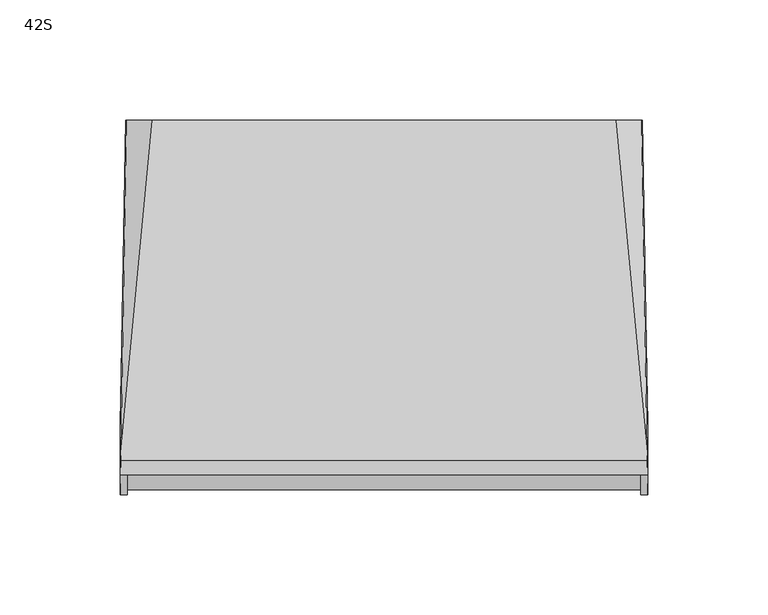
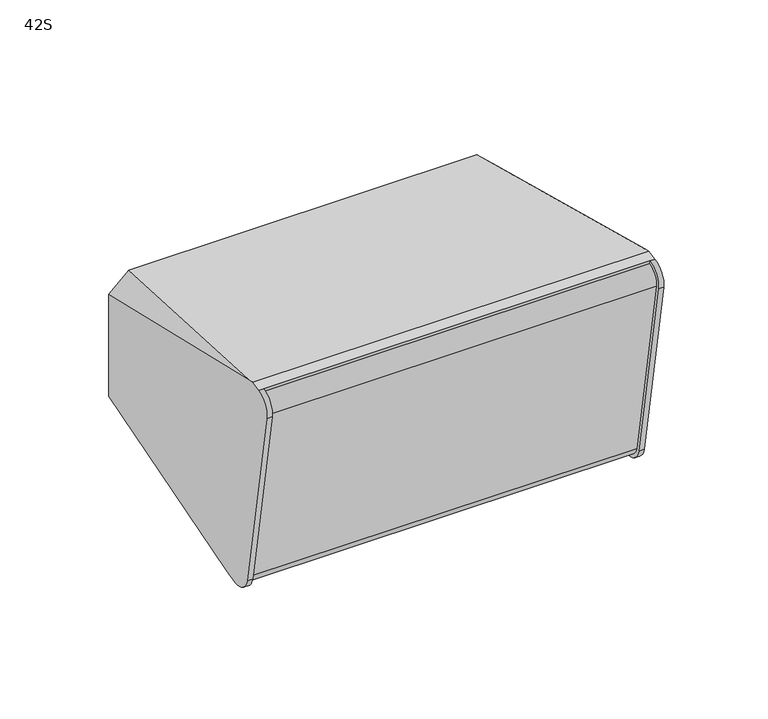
"""IFC4 building model written with IfcOpenShell, lengths in millimetres: proxy geometry, d&b xS-Series 42S Point Source : 42S."""

import ifcopenshell
import ifcopenshell.guid

model = None  # the IFC model being written
_history = None  # IfcOwnerHistory: only IFC2X3 demands one
_inside = {}  # id of a spatial element -> (the spatial element, [elements in it])
_under = {}  # id of a project, library or spatial element -> (it, [spatial elements below it])
_declared = {}  # id of a project -> (the project, [libraries it declares])
_typed = {}  # id of a type object -> (the type object, [elements of that type])
_made_of = {}  # id of a material, layer set ... -> (it, [elements and type objects made of it])


def new_model(schema):
    """Start an empty IFC model of exactly this schema.

    Asked for "IFC4X3", IfcOpenShell would pick the latest addendum, in which some entities
    have other attributes; the version numbers below select the first issue.
    IFC2X3 requires an IfcOwnerHistory on every rooted entity: one is made here for all.
    """
    global model, _history
    if schema == "IFC4X3":
        model = ifcopenshell.file(schema_version=(4, 3, 0, 0))
    else:
        model = ifcopenshell.file(schema=schema)
    _inside.clear()
    _under.clear()
    _declared.clear()
    _typed.clear()
    _made_of.clear()
    _history = None
    if model.schema == "IFC2X3":
        org = make("IfcOrganization", Name="unknown")
        user = make(
            "IfcPersonAndOrganization",
            ThePerson=make("IfcPerson", FamilyName="unknown"),
            TheOrganization=org,
        )
        app = make(
            "IfcApplication",
            ApplicationDeveloper=org,
            Version="unknown",
            ApplicationFullName="unknown",
            ApplicationIdentifier="unknown",
        )
        _history = make(
            "IfcOwnerHistory",
            OwningUser=user,
            OwningApplication=app,
            ChangeAction="ADDED",
            CreationDate=0,
        )
    return model


def make(cls, **values):
    """One entity of the class cls with the attributes given. An attribute that is None is left unset."""
    return model.create_entity(
        cls, **{name: value for name, value in values.items() if value is not None}
    )


def rooted(cls, **values):
    """An entity with a GlobalId (a new one), such as an element, a storey or a relation."""
    return make(cls, GlobalId=ifcopenshell.guid.new(), OwnerHistory=_history, **values)


def si_unit(unit_type, name, prefix=None):
    """IfcSIUnit, for example si_unit("LENGTHUNIT", "METRE", prefix="MILLI")."""
    return make("IfcSIUnit", UnitType=unit_type, Prefix=prefix, Name=name)


def assignment(units):
    """IfcUnitAssignment: the units of a project."""
    return None if units is None else make("IfcUnitAssignment", Units=units)


def point(xyz):
    """IfcCartesianPoint."""
    return None if xyz is None else make("IfcCartesianPoint", Coordinates=xyz)


def direction(xyz):
    """IfcDirection."""
    return None if xyz is None else make("IfcDirection", DirectionRatios=xyz)


def frame(location, z_axis=None, x_axis=None):
    """IfcAxis2Placement3D, a coordinate frame: its origin and axes. An axis left out is left unset."""
    return make(
        "IfcAxis2Placement3D",
        Location=point(location),
        Axis=direction(z_axis),
        RefDirection=direction(x_axis),
    )


def frame_2d(location, x_axis=None):
    """IfcAxis2Placement2D, a coordinate frame in the plane: its origin and x axis."""
    return make(
        "IfcAxis2Placement2D", Location=point(location), RefDirection=direction(x_axis)
    )


def origin():
    """The frame at (0, 0, 0) with its axes left unset."""
    return frame((0.0, 0.0, 0.0))


def place(relative_to, where):
    """IfcLocalPlacement: puts the frame where relative to a parent placement (None: the world)."""
    return make(
        "IfcLocalPlacement", PlacementRelTo=relative_to, RelativePlacement=where
    )


def context(
    kind, dimensions, precision=None, world=None, true_north=None, identifier=None
):
    """IfcGeometricRepresentationContext, for example the 3D "Model" context."""
    return make(
        "IfcGeometricRepresentationContext",
        ContextIdentifier=identifier,
        ContextType=kind,
        CoordinateSpaceDimension=dimensions,
        Precision=precision,
        WorldCoordinateSystem=world,
        TrueNorth=true_north,
    )


def project(units=None, contexts=None):
    """IfcProject with its units and contexts."""
    return rooted(
        "IfcProject",
        Name="project",
        RepresentationContexts=contexts,
        UnitsInContext=assignment(units),
    )


def spatial(cls, under=None, at=None, **own):
    """A site, building, storey or space (cls), placed at a placement, below another one or the project."""
    s = rooted(cls, ObjectPlacement=at, **own)
    if under is not None:
        _under.setdefault(under.id(), (under, []))[1].append(s)
    return s


def polyline(points):
    """IfcPolyline through the points."""
    return make("IfcPolyline", Points=[point(p) for p in points])


def circle_curve(where, radius):
    """IfcCircle in the frame where."""
    return make("IfcCircle", Position=where, Radius=radius)


def ellipse_curve(where, semi_axis1, semi_axis2):
    """IfcEllipse in the frame where."""
    return make(
        "IfcEllipse", Position=where, SemiAxis1=semi_axis1, SemiAxis2=semi_axis2
    )


def trimmed(basis, trim1, trim2, sense, master):
    """IfcTrimmedCurve: the piece of a basis curve between two trims."""
    return make(
        "IfcTrimmedCurve",
        BasisCurve=basis,
        Trim1=trim1,
        Trim2=trim2,
        SenseAgreement=sense,
        MasterRepresentation=master,
    )


def segment(curve, same_sense, transition):
    """IfcCompositeCurveSegment."""
    return make(
        "IfcCompositeCurveSegment",
        Transition=transition,
        SameSense=same_sense,
        ParentCurve=curve,
    )


def composite_curve(segments, self_intersect=None):
    """IfcCompositeCurve: segments joined end to end."""
    return make("IfcCompositeCurve", Segments=segments, SelfIntersect=self_intersect)


def outline(outer, holes=None, kind="AREA"):
    """IfcArbitraryClosedProfileDef: a profile drawn as a closed curve; with holes, ...WithVoids."""
    if holes is None:
        return make("IfcArbitraryClosedProfileDef", ProfileType=kind, OuterCurve=outer)
    return make(
        "IfcArbitraryProfileDefWithVoids",
        ProfileType=kind,
        OuterCurve=outer,
        InnerCurves=holes,
    )


def extrude(swept, where, along, depth):
    """IfcExtrudedAreaSolid: the profile swept, set in the frame where, extruded along a direction by depth."""
    return make(
        "IfcExtrudedAreaSolid",
        SweptArea=swept,
        Position=where,
        ExtrudedDirection=direction(along),
        Depth=depth,
    )


def shape(context_of_items, identifier, shape_type, items):
    """IfcShapeRepresentation: the items that make up one representation, for example the "Body"."""
    return make(
        "IfcShapeRepresentation",
        ContextOfItems=context_of_items,
        RepresentationIdentifier=identifier,
        RepresentationType=shape_type,
        Items=items,
    )


def source(mapping_origin, context_of_items, identifier, shape_type, items):
    """IfcRepresentationMap: a shape defined once, which mapped items show again and again."""
    return make(
        "IfcRepresentationMap",
        MappingOrigin=mapping_origin,
        MappedRepresentation=shape(context_of_items, identifier, shape_type, items),
    )


def transform(
    local_origin,
    x_axis=None,
    y_axis=None,
    z_axis=None,
    scale=None,
    scale2=None,
    scale3=None,
    uniform=True,
):
    """IfcCartesianTransformationOperator3D, or its non-uniform kind. x_axis, y_axis, z_axis: its Axis1, 2, 3."""
    if uniform:
        return make(
            "IfcCartesianTransformationOperator3D",
            Axis1=direction(x_axis),
            Axis2=direction(y_axis),
            LocalOrigin=point(local_origin),
            Scale=scale,
            Axis3=direction(z_axis),
        )
    return make(
        "IfcCartesianTransformationOperator3DnonUniform",
        Axis1=direction(x_axis),
        Axis2=direction(y_axis),
        LocalOrigin=point(local_origin),
        Scale=scale,
        Axis3=direction(z_axis),
        Scale2=scale2,
        Scale3=scale3,
    )


def mapped(mapping_source, mapping_target):
    """IfcMappedItem: shows the shape of a source again, moved by a transform."""
    return make(
        "IfcMappedItem", MappingSource=mapping_source, MappingTarget=mapping_target
    )


def made_of(thing, what):
    """Note that an element or type object is made of a material, layer set ...; save() writes the relation."""
    if what is not None:
        _made_of.setdefault(what.id(), (what, []))[1].append(thing)
    return thing


def element(
    cls,
    number,
    at=None,
    inside=None,
    cuts=None,
    type_object=None,
    material=None,
    context=None,
    identifier="Body",
    shape_type=None,
    held_by="IfcProductDefinitionShape",
    body=None,
    shapes=None,
    **own,
):
    """One element of the class cls, such as IfcWall. Its Tag is "e" and its number.

    at: its placement. inside: the storey or other place that contains it. cuts: it is an
    opening in that element (IfcRelVoidsElement). A single representation is given by context,
    identifier, shape_type and body (its items); several are given by shapes. held_by: the class
    of the entity that holds the representations. save() writes the other relations.
    """
    e = rooted(cls, Tag="e%d" % number, ObjectPlacement=at, **own)
    if body is not None:
        shapes = [shape(context, identifier, shape_type, body)]
    if shapes is not None:
        e.Representation = make(held_by, Representations=shapes)
    if inside is not None:
        _inside.setdefault(inside.id(), (inside, []))[1].append(e)
    if cuts is not None:
        rooted(
            "IfcRelVoidsElement", RelatingBuildingElement=cuts, RelatedOpeningElement=e
        )
    if type_object is not None:
        _typed.setdefault(type_object.id(), (type_object, []))[1].append(e)
    return made_of(e, material)


def aggregate(whole, parts):
    """IfcRelAggregates: a whole, such as a stair, and the parts it consists of."""
    return rooted("IfcRelAggregates", RelatingObject=whole, RelatedObjects=parts)


def save(model, path):
    """Write the relations noted so far, then the file.

    IfcRelAggregates (storeys below a building ...), IfcRelContainedInSpatialStructure (elements
    in a storey), IfcRelDefinesByType, IfcRelAssociatesMaterial and IfcRelDeclares: one each for
    every whole, place, type object, material and project.
    """
    for whole, parts in _under.values():
        aggregate(whole, parts)
    for where, things in _inside.values():
        rooted(
            "IfcRelContainedInSpatialStructure",
            RelatedElements=things,
            RelatingStructure=where,
        )
    for kind, things in _typed.values():
        rooted("IfcRelDefinesByType", RelatedObjects=things, RelatingType=kind)
    for what, things in _made_of.values():
        rooted("IfcRelAssociatesMaterial", RelatedObjects=things, RelatingMaterial=what)
    for by, libraries in _declared.values():
        rooted("IfcRelDeclares", RelatingContext=by, RelatedDefinitions=libraries)
    model.write(path)


def plane_surface(at):
    """IfcPlane: the flat surface through the origin of the frame at, square to its z axis."""
    return make("IfcPlane", Position=at)


def cylinder_surface(at, radius):
    """IfcCylindricalSurface: all points at the distance radius from the z axis of the frame at."""
    return make("IfcCylindricalSurface", Position=at, Radius=radius)


def revolved_surface(curve, axis_point, axis_direction):
    """IfcSurfaceOfRevolution: the curve turned about the line through axis_point along axis_direction."""
    return make(
        "IfcSurfaceOfRevolution",
        SweptCurve=make("IfcArbitraryOpenProfileDef", ProfileType="CURVE", Curve=curve),
        AxisPosition=make("IfcAxis1Placement", Location=point(axis_point), Axis=direction(axis_direction)),
    )


def advanced_brep(points, edges, surfaces, faces):
    """IfcAdvancedBrep: a solid bounded by faces that lie on surfaces and meet in shared edges.

    An edge is (start, end): straight between two places in points (the first is 0);
    or (start, end, curve); or (start, end, curve, False) where it runs against its curve.
    A face is (place in surfaces, loops), or (place, loops, False) where it looks against
    its surface's normal. A loop lists edges by number (the first is 1), with a minus sign
    where the edge is run from its end to its start. The first loop is the outer one.
    """
    corners = [point(p) for p in points]
    vertices = [make("IfcVertexPoint", VertexGeometry=c) for c in corners]
    made = []
    for start, end, *more in edges:
        made.append(
            make(
                "IfcEdgeCurve",
                EdgeStart=vertices[start],
                EdgeEnd=vertices[end],
                EdgeGeometry=more[0] if more else make("IfcPolyline", Points=[corners[start], corners[end]]),
                SameSense=more[1] if len(more) > 1 else True,
            )
        )
    hull = []
    for where, loops, *sense in faces:
        bounds = []
        for j, loop in enumerate(loops):
            ring = [make("IfcOrientedEdge", EdgeElement=made[abs(k) - 1], Orientation=k > 0) for k in loop]
            bounds.append(
                make(
                    "IfcFaceOuterBound" if j == 0 else "IfcFaceBound",
                    Bound=make("IfcEdgeLoop", EdgeList=ring),
                    Orientation=True,
                )
            )
        hull.append(make("IfcAdvancedFace", Bounds=bounds, FaceSurface=surfaces[where], SameSense=sense[0] if sense else True))
    return make("IfcAdvancedBrep", Outer=make("IfcClosedShell", CfsFaces=hull))


def proxy_42s_63104fb8(model_context):
    return source(origin(), model_context, "Body", "SolidModel", [
        advanced_brep(
        [(-107.0, -53.8838283, -74.4884759), (107.0, -53.8838283, -74.4884759), (107.0, -54.2235668, -72.5617234), (-107.0, -54.2235668, -72.5617234), (107.0, -63.4507785, -66.1007602), (-107.0, -63.4507785, -66.1007602), (107.0, -82.2184008, 40.3357147), (-107.0, -82.2184008, 40.3357147), (107.0, -75.7291242, 49.6033621), (-107.0, -75.7291242, 49.6033621), (107.0, -76.0764205, 51.5729776), (-107.0, -76.0764205, 51.5729776), (109.8273531, -76.0764205, 51.5729776), (109.7253263, -70.2363231, 52.6027444), (-109.7253263, -70.2363231, 52.6027444), (-109.8273531, -76.0764205, 51.5729776), (-109.8279536, -53.8838283, -74.4884759), (-109.6679034, -44.7224233, -72.873073), (-97.8946622, 71.803477, -52.3264129), (97.8946622, 71.803477, -52.3264129), (109.6679034, -44.7224233, -72.873073), (109.8279536, -53.8838283, -74.4884759), (96.5142171, 71.803477, 27.569373), (-96.5142171, 71.803477, 27.569373), (-109.6679034, -66.7384961, 51.9862805), (109.6679034, -66.7384961, 51.9862805), (-107.602215, 71.803477, -42.2930744), (107.602215, 71.803477, -42.2930744), (107.4240938, 71.803477, 17.3279766), (-107.4240938, 71.803477, 17.3279766), (-109.9986507, -65.3775311, -66.4404986), (-109.9993995, -84.1880163, 39.9884183), (109.9993995, -84.1880163, 39.9884183), (109.9993995, -65.420394, -66.4480565), (-107.0, -84.1880163, 39.9884183), (-107.0, -65.420394, -66.4480565), (-95.447753, 71.803477, -33.2098641), (-82.947753, 71.803477, -45.7098641), (-67.052247, 71.803477, -45.7098641), (-54.552247, 71.803477, -33.2098641), (-54.552247, 71.803477, 8.3756313), (-67.052247, 71.803477, 20.8756313), (-82.947753, 71.803477, 20.8756313), (-95.447753, 71.803477, 8.3756313), (52.1, 71.803477, -33.2098641), (64.6, 71.803477, -45.7098641), (82.4, 71.803477, -45.7098641), (94.9, 71.803477, -33.2098641), (94.9, 71.803477, 8.3756313), (82.4, 71.803477, 20.8756313), (64.6, 71.803477, 20.8756313), (52.1, 71.803477, 8.3756313), (-95.447753, 66.803477, -33.2098641), (-95.447753, 66.803477, 8.3756313), (-82.947753, 66.803477, 20.8756313), (-67.052247, 66.803477, 20.8756313), (-54.552247, 66.803477, 8.3756313), (-54.552247, 66.803477, -33.2098641), (-67.052247, 66.803477, -45.7098641), (-82.947753, 66.803477, -45.7098641), (52.1, 66.803477, -33.2098641), (52.1, 66.803477, 8.3756313), (64.6, 66.803477, 20.8756313), (82.4, 66.803477, 20.8756313), (94.9, 66.803477, 8.3756313), (94.9, 66.803477, -33.2098641), (82.4, 66.803477, -45.7098641), (64.6, 66.803477, -45.7098641), (107.0, -65.3775311, -66.4404986), (107.0, -84.1880163, 39.9884183)],
        [
            (0, 1),
            (1, 2),
            (2, 3),
            (3, 0),
            (2, 4, circle_curve(frame((107.0, -55.606691, -64.7176359), z_axis=(-1.0, 0.0, 0.0), x_axis=(0.0, 0.1736481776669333, -0.9848077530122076)), 7.9650952)),
            (4, 5),
            (5, 3, circle_curve(frame((-107.0, -55.606691, -64.7176359), z_axis=(1.0, 0.0, 0.0), x_axis=(0.0, 0.1736481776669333, -0.9848077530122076)), 7.9650952)),
            (4, 6),
            (6, 7),
            (7, 5),
            (6, 8, circle_curve(frame((107.0, -74.3399388, 41.7249001), z_axis=(-1.0, 0.0, 0.0), x_axis=(0.0, 0.1736481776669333, -0.9848077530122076)), 8.0)),
            (8, 9),
            (9, 7, circle_curve(frame((-107.0, -74.3399388, 41.7249001), z_axis=(1.0, 0.0, 0.0), x_axis=(0.0, 0.1736481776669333, -0.9848077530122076)), 8.0)),
            (8, 10),
            (10, 11),
            (11, 9),
            (10, 12),
            (12, 13),
            (13, 14),
            (14, 15),
            (15, 11),
            (0, 16),
            (16, 17),
            (17, 18),
            (18, 19),
            (19, 20),
            (20, 21),
            (21, 1),
            (22, 23),
            (23, 24),
            (24, 14),
            (13, 25),
            (25, 22),
            (26, 18),
            (17, 26),
            (19, 27),
            (27, 20),
            (28, 22),
            (25, 28),
            (23, 29),
            (29, 24),
            (29, 26),
            (16, 30, ellipse_curve(frame((-109.8279536, -55.606691, -64.7176359), z_axis=(-0.9998520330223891, 0.016940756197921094, 0.002987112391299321), x_axis=(-0.017202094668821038, -0.984662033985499, -0.1736224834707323)), 9.9230392, 9.921571)),
            (30, 31),
            (31, 15, ellipse_curve(frame((-109.8273531, -74.3399388, 41.7249001), z_axis=(-0.9998520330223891, 0.016940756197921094, 0.002987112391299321), x_axis=(-0.017202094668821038, -0.984662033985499, -0.1736224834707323)), 10.0014799, 10.0)),
            (12, 32, ellipse_curve(frame((109.8273531, -74.3399388, 41.7249001), z_axis=(0.9998520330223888, 0.016940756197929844, 0.002987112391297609), x_axis=(-0.017202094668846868, 0.984662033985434, 0.17362248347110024)), 10.0014799, 10.0)),
            (32, 33),
            (33, 21, ellipse_curve(frame((109.8279536, -55.606691, -64.7176359), z_axis=(0.9998520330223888, 0.016940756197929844, 0.002987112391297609), x_axis=(-0.017202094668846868, 0.984662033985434, 0.17362248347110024)), 9.9230392, 9.921571)),
            (27, 28),
            (11, 34, circle_curve(frame((-107.0, -74.3399388, 41.7249001), z_axis=(1.0, 0.0, 0.0), x_axis=(0.0, 0.1736481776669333, -0.9848077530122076)), 10.0)),
            (34, 35),
            (35, 0, circle_curve(frame((-107.0, -55.606691, -64.7176359), z_axis=(1.0, 0.0, 0.0), x_axis=(0.0, 0.1736481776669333, -0.9848077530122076)), 9.921571)),
            (35, 30),
            (34, 31),
            (36, 37, circle_curve(frame((-82.947753, 71.803477, -33.2098641), z_axis=(0.0, -1.0, 0.0), x_axis=(0.0, 0.0, 1.0)), 12.5)),
            (37, 38),
            (38, 39, circle_curve(frame((-67.052247, 71.803477, -33.2098641), z_axis=(0.0, -1.0, 0.0), x_axis=(0.0, 0.0, 1.0)), 12.5)),
            (39, 40),
            (40, 41, circle_curve(frame((-67.052247, 71.803477, 8.3756313), z_axis=(0.0, -1.0, 0.0), x_axis=(0.0, 0.0, 1.0)), 12.5)),
            (41, 42),
            (42, 43, circle_curve(frame((-82.947753, 71.803477, 8.3756313), z_axis=(0.0, -1.0, 0.0), x_axis=(0.0, 0.0, 1.0)), 12.5)),
            (43, 36),
            (44, 45, circle_curve(frame((64.6, 71.803477, -33.2098641), z_axis=(0.0, -1.0, 0.0), x_axis=(0.0, 0.0, 1.0)), 12.5)),
            (45, 46),
            (46, 47, circle_curve(frame((82.4, 71.803477, -33.2098641), z_axis=(0.0, -1.0, 0.0), x_axis=(0.0, 0.0, 1.0)), 12.5)),
            (47, 48),
            (48, 49, circle_curve(frame((82.4, 71.803477, 8.3756313), z_axis=(0.0, -1.0, 0.0), x_axis=(0.0, 0.0, 1.0)), 12.5)),
            (49, 50),
            (50, 51, circle_curve(frame((64.6, 71.803477, 8.3756313), z_axis=(0.0, -1.0, 0.0), x_axis=(0.0, 0.0, 1.0)), 12.5)),
            (51, 44),
            (52, 53),
            (53, 54, circle_curve(frame((-82.947753, 66.803477, 8.3756313), z_axis=(0.0, 1.0, 0.0), x_axis=(0.0, 0.0, 1.0)), 12.5)),
            (54, 55),
            (55, 56, circle_curve(frame((-67.052247, 66.803477, 8.3756313), z_axis=(0.0, 1.0, 0.0), x_axis=(0.0, 0.0, 1.0)), 12.5)),
            (56, 57),
            (57, 58, circle_curve(frame((-67.052247, 66.803477, -33.2098641), z_axis=(0.0, 1.0, 0.0), x_axis=(0.0, 0.0, 1.0)), 12.5)),
            (58, 59),
            (59, 52, circle_curve(frame((-82.947753, 66.803477, -33.2098641), z_axis=(0.0, 1.0, 0.0), x_axis=(0.0, 0.0, 1.0)), 12.5)),
            (60, 61),
            (61, 62, circle_curve(frame((64.6, 66.803477, 8.3756313), z_axis=(0.0, 1.0, 0.0), x_axis=(0.0, 0.0, 1.0)), 12.5)),
            (62, 63),
            (63, 64, circle_curve(frame((82.4, 66.803477, 8.3756313), z_axis=(0.0, 1.0, 0.0), x_axis=(0.0, 0.0, 1.0)), 12.5)),
            (64, 65),
            (65, 66, circle_curve(frame((82.4, 66.803477, -33.2098641), z_axis=(0.0, 1.0, 0.0), x_axis=(0.0, 0.0, 1.0)), 12.5)),
            (66, 67),
            (67, 60, circle_curve(frame((64.6, 66.803477, -33.2098641), z_axis=(0.0, 1.0, 0.0), x_axis=(0.0, 0.0, 1.0)), 12.5)),
            (1, 68, circle_curve(frame((107.0, -55.606691, -64.7176359), z_axis=(-1.0, 0.0, 0.0), x_axis=(0.0, 0.1736481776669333, -0.9848077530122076)), 9.921571)),
            (68, 69),
            (69, 10, circle_curve(frame((107.0, -74.3399388, 41.7249001), z_axis=(-1.0, 0.0, 0.0), x_axis=(0.0, 0.1736481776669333, -0.9848077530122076)), 10.0)),
            (33, 68),
            (32, 69),
            (59, 37),
            (36, 52),
            (58, 38),
            (57, 39),
            (56, 40),
            (55, 41),
            (54, 42),
            (53, 43),
            (67, 45),
            (44, 60),
            (66, 46),
            (65, 47),
            (64, 48),
            (63, 49),
            (62, 50),
            (61, 51),
        ],
        [
            plane_surface(frame((-107.0, -53.8838283, -74.4884759), z_axis=(0.0, -0.9848077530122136, -0.17364817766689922), x_axis=(1.0, 0.0, 0.0))),
            cylinder_surface(frame((107.0, -55.606691, -64.7176359), z_axis=(-1.0, 0.0, 0.0), x_axis=(0.0, 0.1736481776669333, -0.9848077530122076)), 7.9650952),
            plane_surface(frame((-107.0, -63.4507785, -66.1007602), z_axis=(0.0, -0.9848077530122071, -0.17364817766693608), x_axis=(1.0, 0.0, 0.0))),
            cylinder_surface(frame((107.0, -74.3399388, 41.7249001), z_axis=(-1.0, 0.0, 0.0), x_axis=(0.0, 0.1736481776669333, -0.9848077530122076)), 8.0),
            plane_surface(frame((-107.0, -75.7291242, 49.6033621), z_axis=(0.0, -0.9848077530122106, -0.17364817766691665), x_axis=(1.0, 0.0, 0.0))),
            plane_surface(frame((-107.0, -76.0764205, 51.5729776), z_axis=(0.0, -0.1736481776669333, 0.9848077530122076), x_axis=(1.0, 0.0, 0.0))),
            plane_surface(frame((-107.0, -48.0093563, -73.452648), z_axis=(0.0, 0.1736481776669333, -0.9848077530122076), x_axis=(1.0, 0.0, 0.0))),
            plane_surface(frame((0.0, 72.3274823, 27.4770213), z_axis=(0.0, 0.17356696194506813, 0.9848220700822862), x_axis=(-1.0, 0.0, 0.0))),
            plane_surface(frame((-103.232233, 84.7836622, -43.1654853), z_axis=(-0.7053631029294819, 0.1916027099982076, -0.6824597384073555), x_axis=(0.7071067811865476, 0.12278780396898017, -0.6963642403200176))),
            plane_surface(frame((103.232233, 84.7836622, -43.1654853), z_axis=(0.7053631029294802, 0.19160270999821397, -0.6824597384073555), x_axis=(0.7071067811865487, -0.12278780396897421, 0.6963642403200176))),
            plane_surface(frame((103.232233, 73.5026927, 20.812072), z_axis=(0.6719558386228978, 0.18995477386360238, 0.715815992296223), x_axis=(-0.7071067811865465, -0.12278780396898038, 0.6963642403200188))),
            plane_surface(frame((-103.232233, 73.5026927, 20.812072), z_axis=(-0.6719558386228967, 0.1899547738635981, 0.715815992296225), x_axis=(-0.7071067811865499, 0.12278780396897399, -0.6963642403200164))),
            plane_surface(frame((-110.3665166, -113.1899198, 81.5842244), z_axis=(-0.9998520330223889, 0.01694075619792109, 0.0029871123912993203), x_axis=(0.0, 0.1736481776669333, -0.9848077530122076))),
            plane_surface(frame((107.2474477, 65.3481506, 113.0653033), z_axis=(0.999852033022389, 0.016940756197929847, 0.00298711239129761), x_axis=(0.0, 0.1736481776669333, -0.9848077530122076))),
            plane_surface(frame((-107.0, -53.8838283, -74.4884759), z_axis=(1.0, 0.0, 0.0), x_axis=(0.0, 0.9848077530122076, 0.1736481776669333))),
            cylinder_surface(frame((-107.0, -55.606691, -64.7176359), z_axis=(-1.0, 0.0, 0.0), x_axis=(0.0, 0.1736481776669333, -0.9848077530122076)), 9.921571),
            plane_surface(frame((-112.6426388, -65.420394, -66.4480565), z_axis=(0.0, -0.9848077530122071, -0.17364817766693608), x_axis=(1.0, 0.0, 0.0))),
            cylinder_surface(frame((-107.0, -74.3399388, 41.7249001), z_axis=(-1.0, 0.0, 0.0), x_axis=(0.0, 0.1736481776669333, -0.9848077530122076)), 10.0),
            plane_surface(frame((-250.0, 71.803477, -69.8511939), z_axis=(0.0, 1.0, 0.0), x_axis=(1.0, 0.0, 0.0))),
            plane_surface(frame((-82.947753, 66.803477, -20.7098641), z_axis=(0.0, 1.0, 0.0), x_axis=(-1.0, 0.0, 0.0))),
            plane_surface(frame((107.0, -53.8838283, -74.4884759), z_axis=(-1.0, 0.0, 0.0), x_axis=(0.0, -0.9848077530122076, -0.1736481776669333))),
            cylinder_surface(frame((113.0, -55.606691, -64.7176359), z_axis=(-1.0, 0.0, 0.0), x_axis=(0.0, 0.1736481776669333, -0.9848077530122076)), 9.921571),
            plane_surface(frame((107.0, -65.420394, -66.4480565), z_axis=(0.0, -0.9848077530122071, -0.17364817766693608), x_axis=(1.0, 0.0, 0.0))),
            cylinder_surface(frame((113.0, -74.3399388, 41.7249001), z_axis=(-1.0, 0.0, 0.0), x_axis=(0.0, 0.1736481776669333, -0.9848077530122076)), 10.0),
            revolved_surface(polyline([(-82.947753, 66.803477, -20.709864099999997), (-82.947753, 71.803477, -20.709864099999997)]), (-82.947753, 71.803477, -33.2098641), (0.0, -1.0, 0.0)),
            plane_surface(frame((-82.947753, 66.803477, -45.7098641), z_axis=(0.0, 0.0, 1.0), x_axis=(0.0, 1.0, 0.0))),
            revolved_surface(polyline([(-67.052247, 66.803477, -20.709864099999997), (-67.052247, 71.803477, -20.709864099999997)]), (-67.052247, 71.803477, -33.2098641), (0.0, -1.0, 0.0)),
            plane_surface(frame((-54.552247, 66.803477, -33.2098641), z_axis=(-1.0, 0.0, 0.0), x_axis=(0.0, 1.0, 0.0))),
            revolved_surface(polyline([(-67.052247, 66.803477, 20.875631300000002), (-67.052247, 71.803477, 20.875631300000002)]), (-67.052247, 71.803477, 8.3756313), (0.0, -1.0, 0.0)),
            plane_surface(frame((-67.052247, 66.803477, 20.8756313), z_axis=(0.0, 0.0, -1.0), x_axis=(0.0, 1.0, 0.0))),
            revolved_surface(polyline([(-82.947753, 66.803477, 20.875631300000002), (-82.947753, 71.803477, 20.875631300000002)]), (-82.947753, 71.803477, 8.3756313), (0.0, -1.0, 0.0)),
            plane_surface(frame((-95.447753, 66.803477, 8.3756313), z_axis=(1.0, 0.0, 0.0), x_axis=(0.0, 1.0, 0.0))),
            revolved_surface(polyline([(64.6, 66.803477, -20.709864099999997), (64.6, 71.803477, -20.709864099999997)]), (64.6, 71.803477, -33.2098641), (0.0, -1.0, 0.0)),
            plane_surface(frame((64.6, 66.803477, -45.7098641), z_axis=(0.0, 0.0, 1.0), x_axis=(0.0, 1.0, 0.0))),
            revolved_surface(polyline([(82.4, 66.803477, -20.709864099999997), (82.4, 71.803477, -20.709864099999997)]), (82.4, 71.803477, -33.2098641), (0.0, -1.0, 0.0)),
            plane_surface(frame((94.9, 66.803477, -33.2098641), z_axis=(-1.0, 0.0, 0.0), x_axis=(0.0, 1.0, 0.0))),
            revolved_surface(polyline([(82.4, 66.803477, 20.875631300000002), (82.4, 71.803477, 20.875631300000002)]), (82.4, 71.803477, 8.3756313), (0.0, -1.0, 0.0)),
            plane_surface(frame((82.4, 66.803477, 20.8756313), z_axis=(0.0, 0.0, -1.0), x_axis=(0.0, 1.0, 0.0))),
            revolved_surface(polyline([(64.6, 66.803477, 20.875631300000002), (64.6, 71.803477, 20.875631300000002)]), (64.6, 71.803477, 8.3756313), (0.0, -1.0, 0.0)),
            plane_surface(frame((52.1, 66.803477, 8.3756313), z_axis=(1.0, 0.0, 0.0), x_axis=(0.0, 1.0, 0.0))),
        ],
        [
            (0, [[1, 2, 3, 4]]),
            (1, [[-3, 5, 6, 7]]),
            (2, [[-6, 8, 9, 10]]),
            (3, [[-9, 11, 12, 13]]),
            (4, [[-12, 14, 15, 16]]),
            (5, [[-15, 17, 18, 19, 20, 21]]),
            (6, [[-1, 22, 23, 24, 25, 26, 27, 28]]),
            (7, [[29, 30, 31, -19, 32, 33]]),
            (8, [[34, -24, 35]]),
            (9, [[-26, 36, 37]]),
            (10, [[38, -33, 39]]),
            (11, [[-30, 40, 41]]),
            (12, [[-20, -31, -41, 42, -35, -23, 43, 44, 45]]),
            (13, [[-18, 46, 47, 48, -27, -37, 49, -39, -32]]),
            (14, [[50, 51, 52, -4, -7, -10, -13, -16]]),
            (15, [[-52, 53, -43, -22]]),
            (16, [[-51, 54, -44, -53]]),
            (17, [[-50, -21, -45, -54]]),
            (18, [[-25, -34, -42, -40, -29, -38, -49, -36], [55, 56, 57, 58, 59, 60, 61, 62], [63, 64, 65, 66, 67, 68, 69, 70]]),
            (19, [[71, 72, 73, 74, 75, 76, 77, 78]]),
            (19, [[79, 80, 81, 82, 83, 84, 85, 86]]),
            (20, [[87, 88, 89, -14, -11, -8, -5, -2]]),
            (21, [[-87, -28, -48, 90]]),
            (22, [[-88, -90, -47, 91]]),
            (23, [[-89, -91, -46, -17]]),
            (24, [[-78, 92, -55, 93]]),
            (25, [[-77, 94, -56, -92]]),
            (26, [[-76, 95, -57, -94]]),
            (27, [[-75, 96, -58, -95]]),
            (28, [[-74, 97, -59, -96]]),
            (29, [[-73, 98, -60, -97]]),
            (30, [[-72, 99, -61, -98]]),
            (31, [[-71, -93, -62, -99]]),
            (32, [[-86, 100, -63, 101]]),
            (33, [[-85, 102, -64, -100]]),
            (34, [[-84, 103, -65, -102]]),
            (35, [[-83, 104, -66, -103]]),
            (36, [[-82, 105, -67, -104]]),
            (37, [[-81, 106, -68, -105]]),
            (38, [[-80, 107, -69, -106]]),
            (39, [[-79, -101, -70, -107]]),
        ],
    ),
        extrude(outline(composite_curve([segment(trimmed(circle_curve(frame_2d((-27.3761131, 74.8471384)), 12.0), [point((-15.3761131, 74.8471384))], [point((-39.3761131, 74.8471384))], False, "CARTESIAN"), True, "CONTINUOUS"), segment(trimmed(circle_curve(frame_2d((-27.3761131, 74.8471384)), 12.0), [point((-39.3761131, 74.8471384))], [point((-15.3761131, 74.8471384))], False, "CARTESIAN"), True, "CONTINUOUS")], self_intersect=False)), frame((0.0, 66.803477, 0.0), z_axis=(0.0, 1.0, 0.0), x_axis=(0.0, 0.0, 1.0)), (0.0, 0.0, 1.0), 5.0),
        extrude(outline(composite_curve([segment(trimmed(circle_curve(frame_2d((2.6238869, 74.8471384)), 12.0), [point((14.6238869, 74.8471384))], [point((-9.3761131, 74.8471384))], False, "CARTESIAN"), True, "CONTINUOUS"), segment(trimmed(circle_curve(frame_2d((2.6238869, 74.8471384)), 12.0), [point((-9.3761131, 74.8471384))], [point((14.6238869, 74.8471384))], False, "CARTESIAN"), True, "CONTINUOUS")], self_intersect=False)), frame((0.0, 66.803477, 0.0), z_axis=(0.0, 1.0, 0.0), x_axis=(0.0, 0.0, 1.0)), (0.0, 0.0, 1.0), 5.0),
    ])


if __name__ == "__main__":
    model = new_model("IFC4")
    model_context = context("Model", 3, world=origin())
    ifc_project = project(units=[si_unit("LENGTHUNIT", "METRE", prefix="MILLI")], contexts=[model_context])
    site = spatial("IfcSite", under=ifc_project)
    building = spatial("IfcBuilding", under=site)
    placement = place(None, origin())
    proxy_42s_shape = proxy_42s_63104fb8(model_context)
    element("IfcBuildingElementProxy", 1, Name="d&b xS-Series 42S Point Source : 42S", ObjectType="d&b xS-Series 42S Point Source : 42S", at=placement, inside=building, context=model_context, shape_type="MappedRepresentation", body=[
        mapped(proxy_42s_shape, transform((0.0, 0.0, 0.0), x_axis=(1.0, 0.0, 0.0), y_axis=(0.0, 1.0, 0.0), z_axis=(0.0, 0.0, 1.0))),
    ])
    save(model, "model.ifc")
